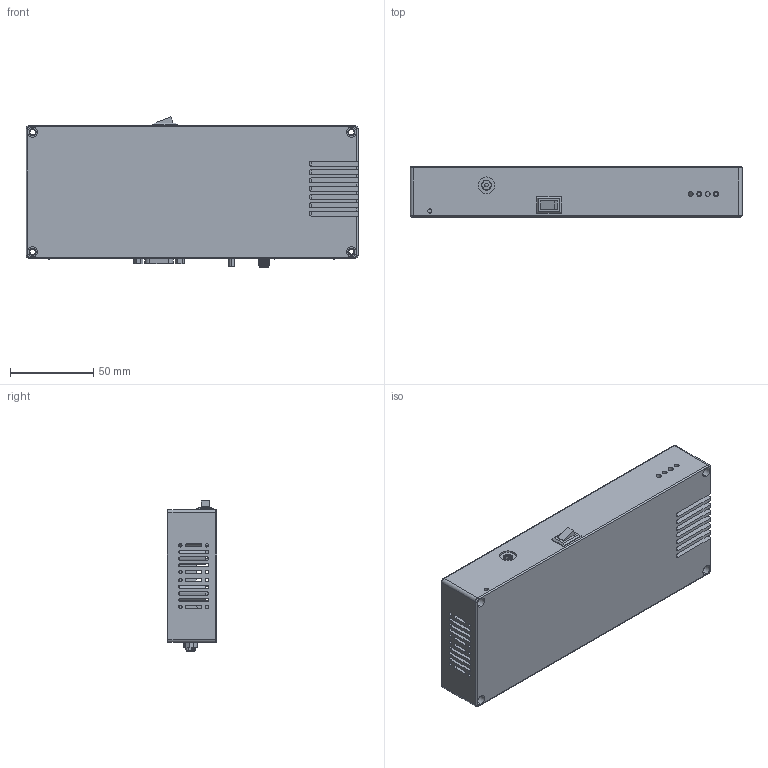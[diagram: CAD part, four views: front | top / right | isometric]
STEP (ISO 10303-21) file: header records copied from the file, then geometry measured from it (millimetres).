
FILE_DESCRIPTION (( 'STEP AP203' ), '1' );
FILE_NAME ('E53.D1S-L蚾饜极.STEP', '2025-06-16T06:23:36', ( 'China' ), ( 'Home' ), 'SwSTEP 2.0', 'SolidWorks 2016', '' );
FILE_SCHEMA (( 'CONFIG_CONTROL_DESIGN' ));
Length unit declared in the file: millimetre
Products named in the file (1): E53.D1S-L蚾饜极
Bounding box: 200 x 30 x 90.45 mm (x, y, z)
Surface area: 95173 mm2 (no closed solid volume)
Topology: 0 solids, 45 shells, 570 faces, 2339 edges, 1778 vertices
Faces by surface type: cylinder 303, plane 194, cone 40, bspline 18, torus 8, sphere 7
Entity records: 25688 total; most frequent: CARTESIAN_POINT 5894, DIRECTION 4331, ORIENTED_EDGE 3409, EDGE_CURVE 2324, VERTEX_POINT 1772, AXIS2_PLACEMENT_3D 1605, VECTOR 1121, LINE 1121
